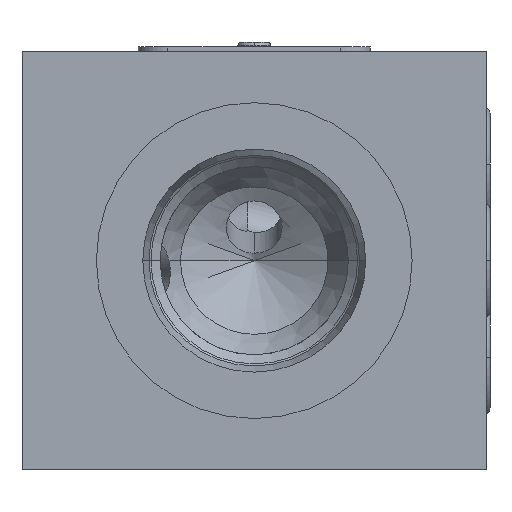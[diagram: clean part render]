
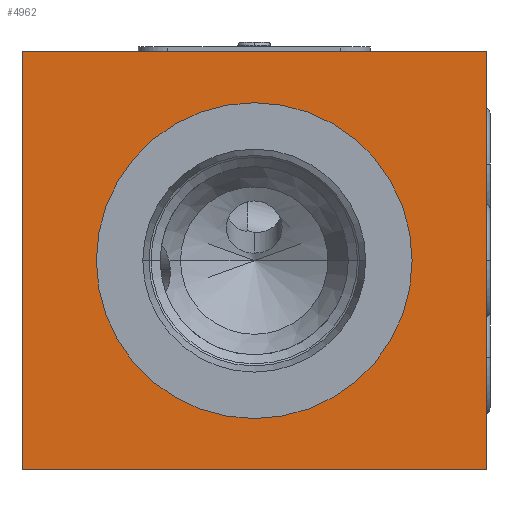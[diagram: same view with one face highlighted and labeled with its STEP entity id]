
A CAD part, left-side view. The second image highlights one B-rep face of the part: STEP entity #4962.
In plain terms, the highlighted planar face has unit normal (-1, 0, 0).
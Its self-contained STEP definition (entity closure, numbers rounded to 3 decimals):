
#56=DIRECTION('',(0.,0.,-1.));
#57=VECTOR('',#56,45.);
#58=CARTESIAN_POINT('',(0.,0.,0.));
#59=LINE('',#58,#57);
#63=DIRECTION('',(0.,1.,0.));
#64=VECTOR('',#63,50.);
#65=CARTESIAN_POINT('',(0.,0.,-45.));
#66=LINE('',#65,#64);
#70=DIRECTION('',(0.,0.,1.));
#71=VECTOR('',#70,45.);
#72=CARTESIAN_POINT('',(0.,50.,-45.));
#73=LINE('',#72,#71);
#77=DIRECTION('',(0.,-1.,0.));
#78=VECTOR('',#77,50.);
#79=CARTESIAN_POINT('',(0.,50.,0.));
#80=LINE('',#79,#78);
#84=CARTESIAN_POINT('',(0.,25.,-22.5));
#85=DIRECTION('',(1.,0.,0.));
#86=DIRECTION('',(0.,-1.,0.));
#87=AXIS2_PLACEMENT_3D('',#84,#85,#86);
#92=CARTESIAN_POINT('',(0.,25.,-22.5));
#93=DIRECTION('',(1.,0.,0.));
#94=DIRECTION('',(0.,1.,0.));
#95=AXIS2_PLACEMENT_3D('',#92,#93,#94);
#4569=CARTESIAN_POINT('',(0.,0.,0.));
#4570=CARTESIAN_POINT('',(0.,0.,-45.));
#4571=VERTEX_POINT('',#4569);
#4572=VERTEX_POINT('',#4570);
#4573=CARTESIAN_POINT('',(0.,50.,-45.));
#4574=VERTEX_POINT('',#4573);
#4575=CARTESIAN_POINT('',(0.,50.,0.));
#4576=VERTEX_POINT('',#4575);
#4721=CARTESIAN_POINT('',(0.,8.,-22.5));
#4722=VERTEX_POINT('',#4721);
#4723=CARTESIAN_POINT('',(0.,42.,-22.5));
#4724=VERTEX_POINT('',#4723);
#4941=CARTESIAN_POINT('',(0.,0.,0.));
#4942=DIRECTION('',(1.,0.,0.));
#4943=DIRECTION('',(0.,0.,-1.));
#4944=AXIS2_PLACEMENT_3D('',#4941,#4942,#4943);
#4945=PLANE('',#4944);
#4947=ORIENTED_EDGE('',*,*,#4946,.T.);
#4949=ORIENTED_EDGE('',*,*,#4948,.T.);
#4951=ORIENTED_EDGE('',*,*,#4950,.T.);
#4953=ORIENTED_EDGE('',*,*,#4952,.T.);
#4954=EDGE_LOOP('',(#4947,#4949,#4951,#4953));
#4955=FACE_OUTER_BOUND('',#4954,.F.);
#4957=ORIENTED_EDGE('',*,*,#4956,.F.);
#4959=ORIENTED_EDGE('',*,*,#4958,.F.);
#4960=EDGE_LOOP('',(#4957,#4959));
#4961=FACE_BOUND('',#4960,.F.);
#88=CIRCLE('',#87,17.);
#96=CIRCLE('',#95,17.);
#4946=EDGE_CURVE('',#4571,#4572,#59,.T.);
#4948=EDGE_CURVE('',#4572,#4574,#66,.T.);
#4950=EDGE_CURVE('',#4574,#4576,#73,.T.);
#4952=EDGE_CURVE('',#4576,#4571,#80,.T.);
#4956=EDGE_CURVE('',#4722,#4724,#88,.T.);
#4958=EDGE_CURVE('',#4724,#4722,#96,.T.);
#4962=ADVANCED_FACE('',(#4955,#4961),#4945,.F.);
